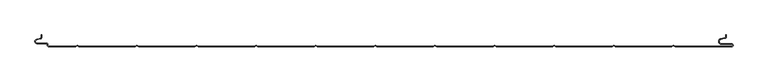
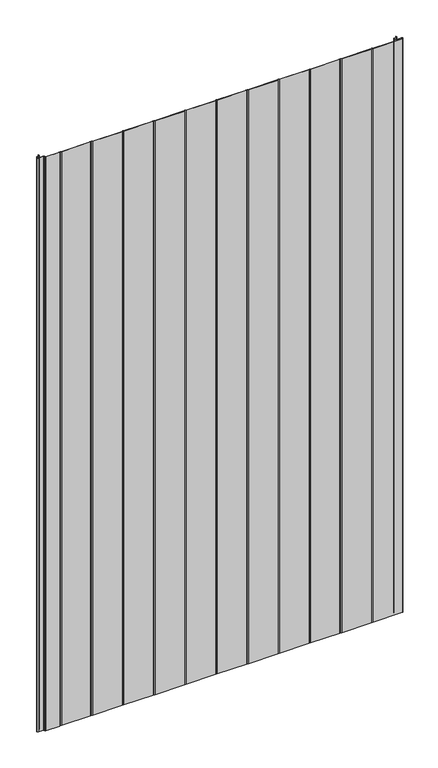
"""IFC4 building model written with IfcOpenShell, lengths in millimetres: plate geometry, PM1_Curtain-Panel_Perfil-Frigorífico : ACH_PM1_Panel-Acústico-Sectorización_200M."""

from ifc_helpers import new_model, si_unit, frame, origin, place, context, project, spatial, polyline, circle_curve, source, transform, mapped, element, save
from ifc_brep_helpers import plane_surface, cylinder_surface, revolved_surface, advanced_brep


def plate_b6d19df9(model_context):
    return source(origin(), model_context, "Body", "AdvancedBrep", [
        advanced_brep(
        [(-575.0, -184.121443, 1945.7507136), (-576.5500978, -186.0701831, 1945.7507136), (-582.7098239, -187.492268, 1945.7507136), (-581.9, -194.6, 1945.7507136), (-566.4, -194.6, 1945.7507136), (-564.4, -196.6, 1945.7507136), (-564.4, -198.0, 1945.7507136), (-562.4, -200.0, 1945.7507136), (-517.0999995, -200.0, 1945.7507136), (-514.4, -198.4411545, 1945.7507136), (-511.7000005, -200.0, 1945.7507136), (-417.0999995, -200.0, 1945.7507136), (-414.4, -198.4411545, 1945.7507136), (-411.7000005, -200.0, 1945.7507136), (-317.0999995, -200.0, 1945.7507136), (-314.4, -198.4411545, 1945.7507136), (-311.7000005, -200.0, 1945.7507136), (-217.0999995, -200.0, 1945.7507136), (-214.4, -198.4411545, 1945.7507136), (-211.7000005, -200.0, 1945.7507136), (-117.0999995, -200.0, 1945.7507136), (-114.4, -198.4411545, 1945.7507136), (-111.7000005, -200.0, 1945.7507136), (-17.0999995, -200.0, 1945.7507136), (-14.4, -198.4411545, 1945.7507136), (-11.7000005, -200.0, 1945.7507136), (82.9000005, -200.0, 1945.7507136), (85.6, -198.4411545, 1945.7507136), (88.2999995, -200.0, 1945.7507136), (182.9000005, -200.0, 1945.7507136), (185.6, -198.4411545, 1945.7507136), (188.2999995, -200.0, 1945.7507136), (282.9000005, -200.0, 1945.7507136), (285.6, -198.4411545, 1945.7507136), (288.2999995, -200.0, 1945.7507136), (382.9000005, -200.0, 1945.7507136), (385.6, -198.4411545, 1945.7507136), (388.2999995, -200.0, 1945.7507136), (482.9000005, -200.0, 1945.7507136), (485.6, -198.4411545, 1945.7507136), (488.2999995, -200.0, 1945.7507136), (583.1, -200.0, 1945.7507136), (585.6, -197.5, 1945.7507136), (583.1, -195.0, 1945.7507136), (566.1, -195.0, 1945.7507136), (565.405407, -187.060769, 1945.7507136), (571.8514855, -185.9241509, 1945.7507136), (574.0, -183.3636508, 1945.7507136), (574.0, -180.0, 1945.7507136), (573.2, -180.0, 1945.7507136), (573.2, -183.3636508, 1945.7507136), (571.7125669, -185.1363047, 1945.7507136), (565.2664884, -186.2729228, 1945.7507136), (566.1, -195.8, 1945.7507136), (583.1, -195.8, 1945.7507136), (583.1, -199.2, 1945.7507136), (488.5143588, -199.2, 1945.7507136), (485.6, -197.517394, 1945.7507136), (482.6856412, -199.2, 1945.7507136), (388.5143588, -199.2, 1945.7507136), (385.6, -197.517394, 1945.7507136), (382.6856412, -199.2, 1945.7507136), (288.5143588, -199.2, 1945.7507136), (285.6, -197.517394, 1945.7507136), (282.6856412, -199.2, 1945.7507136), (188.5143588, -199.2, 1945.7507136), (185.6, -197.517394, 1945.7507136), (182.6856412, -199.2, 1945.7507136), (88.5143588, -199.2, 1945.7507136), (85.6, -197.517394, 1945.7507136), (82.6856412, -199.2, 1945.7507136), (-11.4856412, -199.2, 1945.7507136), (-14.4, -197.517394, 1945.7507136), (-17.3143588, -199.2, 1945.7507136), (-111.4856412, -199.2, 1945.7507136), (-114.4, -197.517394, 1945.7507136), (-117.3143588, -199.2, 1945.7507136), (-211.4856412, -199.2, 1945.7507136), (-214.4, -197.517394, 1945.7507136), (-217.3143588, -199.2, 1945.7507136), (-311.4856412, -199.2, 1945.7507136), (-314.4, -197.517394, 1945.7507136), (-317.3143588, -199.2, 1945.7507136), (-411.4856412, -199.2, 1945.7507136), (-414.4, -197.517394, 1945.7507136), (-417.3143588, -199.2, 1945.7507136), (-511.4856412, -199.2, 1945.7507136), (-514.4, -197.517394, 1945.7507136), (-517.3143588, -199.2, 1945.7507136), (-562.4, -199.2, 1945.7507136), (-563.6, -198.0, 1945.7507136), (-563.6, -196.6, 1945.7507136), (-566.4, -193.8, 1945.7507136), (-581.9, -193.8, 1945.7507136), (-582.529863, -188.2717638, 1945.7507136), (-576.370137, -186.849679, 1945.7507136), (-574.2, -184.121443, 1945.7507136), (-574.2, -180.0, 1945.7507136), (-575.0, -180.0, 1945.7507136), (-575.0, -184.121443, 0.0), (-575.0, -180.0, 0.0), (-574.2, -180.0, 0.0), (-574.2, -184.121443, 0.0), (-576.370137, -186.8496792, 0.0), (-582.529863, -188.271764, 0.0), (-581.9, -193.8, 0.0), (-566.4, -193.8, 0.0), (-563.6, -196.6, 0.0), (-563.6, -198.0, 0.0), (-562.4, -199.2, 0.0), (-517.3143588, -199.2, 0.0), (-514.4, -197.517394, 0.0), (-511.4856412, -199.2, 0.0), (-417.3143588, -199.2, 0.0), (-414.4, -197.517394, 0.0), (-411.4856412, -199.2, 0.0), (-317.3143588, -199.2, 0.0), (-314.4, -197.517394, 0.0), (-311.4856412, -199.2, 0.0), (-217.3143588, -199.2, 0.0), (-214.4, -197.517394, 0.0), (-211.4856412, -199.2, 0.0), (-117.3143588, -199.2, 0.0), (-114.4, -197.517394, 0.0), (-111.4856412, -199.2, 0.0), (-17.3143588, -199.2, 0.0), (-14.4, -197.517394, 0.0), (-11.4856412, -199.2, 0.0), (82.6856412, -199.2, 0.0), (85.6, -197.517394, 0.0), (88.5143588, -199.2, 0.0), (182.6856412, -199.2, 0.0), (185.6, -197.517394, 0.0), (188.5143588, -199.2, 0.0), (282.6856412, -199.2, 0.0), (285.6, -197.517394, 0.0), (288.5143588, -199.2, 0.0), (382.6856412, -199.2, 0.0), (385.6, -197.517394, 0.0), (388.5143588, -199.2, 0.0), (482.6856412, -199.2, 0.0), (485.6, -197.517394, 0.0), (488.5143588, -199.2, 0.0), (583.1, -199.2, 0.0), (583.1, -195.8, 0.0), (566.1, -195.8, 0.0), (565.2664884, -186.2729229, 0.0), (571.7125669, -185.1363047, 0.0), (573.2, -183.3636508, 0.0), (573.2, -180.0, 0.0), (574.0, -180.0, 0.0), (574.0, -183.3636508, 0.0), (571.8514855, -185.9241509, 0.0), (565.405407, -187.060769, 0.0), (566.1, -195.0, 0.0), (583.1, -195.0, 0.0), (585.6, -197.5, 0.0), (583.1, -200.0, 0.0), (488.2999995, -200.0, 0.0), (485.6, -198.4411545, 0.0), (482.9000005, -200.0, 0.0), (388.2999995, -200.0, 0.0), (385.6, -198.4411545, 0.0), (382.9000005, -200.0, 0.0), (288.2999995, -200.0, 0.0), (285.6, -198.4411545, 0.0), (282.9000005, -200.0, 0.0), (188.2999995, -200.0, 0.0), (185.6, -198.4411545, 0.0), (182.9000005, -200.0, 0.0), (88.2999995, -200.0, 0.0), (85.6, -198.4411545, 0.0), (82.9000005, -200.0, 0.0), (-11.7000005, -200.0, 0.0), (-14.4, -198.4411545, 0.0), (-17.0999995, -200.0, 0.0), (-111.7000005, -200.0, 0.0), (-114.4, -198.4411545, 0.0), (-117.0999995, -200.0, 0.0), (-211.7000005, -200.0, 0.0), (-214.4, -198.4411545, 0.0), (-217.0999995, -200.0, 0.0), (-311.7000005, -200.0, 0.0), (-314.4, -198.4411545, 0.0), (-317.0999995, -200.0, 0.0), (-411.7000005, -200.0, 0.0), (-414.4, -198.4411545, 0.0), (-417.0999995, -200.0, 0.0), (-511.7000005, -200.0, 0.0), (-514.4, -198.4411545, 0.0), (-517.0999995, -200.0, 0.0), (-562.4, -200.0, 0.0), (-564.4, -198.0, 0.0), (-564.4, -196.6, 0.0), (-566.4, -194.6, 0.0), (-581.9, -194.6, 0.0), (-582.7098239, -187.4922678, 0.0), (-576.5500979, -186.070183, 0.0)],
        [
            (0, 1, circle_curve(frame((-577.0, -184.121443, 1945.7507136), z_axis=(0.0, 0.0, -1.0), x_axis=(1.0, 0.0, 0.0)), 2.0)),
            (1, 2),
            (2, 3, circle_curve(frame((-581.9, -191.0, 1945.7507136), z_axis=(0.0, 0.0, 1.0), x_axis=(1.0, 0.0, 0.0)), 3.6)),
            (3, 4),
            (4, 5, circle_curve(frame((-566.4, -196.6, 1945.7507136), z_axis=(0.0, 0.0, -1.0), x_axis=(1.0, 0.0, 0.0)), 2.0)),
            (5, 6),
            (6, 7, circle_curve(frame((-562.4, -198.0, 1945.7507136), z_axis=(0.0, 0.0, 1.0), x_axis=(1.0, 0.0, 0.0)), 2.0)),
            (7, 8),
            (8, 9),
            (9, 10),
            (10, 11),
            (11, 12),
            (12, 13),
            (13, 14),
            (14, 15),
            (15, 16),
            (16, 17),
            (17, 18),
            (18, 19),
            (19, 20),
            (20, 21),
            (21, 22),
            (22, 23),
            (23, 24),
            (24, 25),
            (25, 26),
            (26, 27),
            (27, 28),
            (28, 29),
            (29, 30),
            (30, 31),
            (31, 32),
            (32, 33),
            (33, 34),
            (34, 35),
            (35, 36),
            (36, 37),
            (37, 38),
            (38, 39),
            (39, 40),
            (40, 41),
            (41, 42, circle_curve(frame((583.1, -197.5, 1945.7507136), z_axis=(0.0, 0.0, 1.0), x_axis=(1.0, 0.0, 0.0)), 2.5)),
            (42, 43, circle_curve(frame((583.1, -197.5, 1945.7507136), z_axis=(0.0, 0.0, 1.0), x_axis=(1.0, 0.0, 0.0)), 2.5)),
            (43, 44),
            (44, 45, circle_curve(frame((566.1, -191.0, 1945.7507136), z_axis=(0.0, 0.0, -1.0), x_axis=(1.0, 0.0, 0.0)), 4.0)),
            (45, 46),
            (46, 47, circle_curve(frame((571.4, -183.3636508, 1945.7507136), z_axis=(0.0, 0.0, 1.0), x_axis=(1.0, 0.0, 0.0)), 2.6)),
            (47, 48),
            (48, 49),
            (49, 50),
            (50, 51, circle_curve(frame((571.4, -183.3636508, 1945.7507136), z_axis=(0.0, 0.0, -1.0), x_axis=(1.0, 0.0, 0.0)), 1.8)),
            (51, 52),
            (52, 53, circle_curve(frame((566.1, -191.0, 1945.7507136), z_axis=(0.0, 0.0, 1.0), x_axis=(1.0, 0.0, 0.0)), 4.8)),
            (53, 54),
            (54, 55, circle_curve(frame((583.1, -197.5, 1945.7507136), z_axis=(0.0, 0.0, -1.0), x_axis=(1.0, 0.0, 0.0)), 1.7)),
            (55, 56),
            (56, 57),
            (57, 58),
            (58, 59),
            (59, 60),
            (60, 61),
            (61, 62),
            (62, 63),
            (63, 64),
            (64, 65),
            (65, 66),
            (66, 67),
            (67, 68),
            (68, 69),
            (69, 70),
            (70, 71),
            (71, 72),
            (72, 73),
            (73, 74),
            (74, 75),
            (75, 76),
            (76, 77),
            (77, 78),
            (78, 79),
            (79, 80),
            (80, 81),
            (81, 82),
            (82, 83),
            (83, 84),
            (84, 85),
            (85, 86),
            (86, 87),
            (87, 88),
            (88, 89),
            (89, 90, circle_curve(frame((-562.4, -198.0, 1945.7507136), z_axis=(0.0, 0.0, -1.0), x_axis=(1.0, 0.0, 0.0)), 1.2)),
            (90, 91),
            (91, 92, circle_curve(frame((-566.4, -196.6, 1945.7507136), z_axis=(0.0, 0.0, 1.0), x_axis=(1.0, 0.0, 0.0)), 2.8)),
            (92, 93),
            (93, 94, circle_curve(frame((-581.9, -191.0, 1945.7507136), z_axis=(0.0, 0.0, -1.0), x_axis=(1.0, 0.0, 0.0)), 2.8)),
            (94, 95),
            (95, 96, circle_curve(frame((-577.0, -184.121443, 1945.7507136), z_axis=(0.0, 0.0, 1.0), x_axis=(1.0, 0.0, 0.0)), 2.8)),
            (96, 97),
            (97, 98),
            (98, 0),
            (99, 100),
            (100, 101),
            (101, 102),
            (102, 103, circle_curve(frame((-577.0, -184.121443, 0.0), z_axis=(0.0, 0.0, -1.0), x_axis=(1.0, 0.0, 0.0)), 2.8)),
            (103, 104),
            (104, 105, circle_curve(frame((-581.9, -191.0, 0.0), z_axis=(0.0, 0.0, 1.0), x_axis=(1.0, 0.0, 0.0)), 2.8)),
            (105, 106),
            (106, 107, circle_curve(frame((-566.4, -196.6, 0.0), z_axis=(0.0, 0.0, -1.0), x_axis=(1.0, 0.0, 0.0)), 2.8)),
            (107, 108),
            (108, 109, circle_curve(frame((-562.4, -198.0, 0.0), z_axis=(0.0, 0.0, 1.0), x_axis=(1.0, 0.0, 0.0)), 1.2)),
            (109, 110),
            (110, 111),
            (111, 112),
            (112, 113),
            (113, 114),
            (114, 115),
            (115, 116),
            (116, 117),
            (117, 118),
            (118, 119),
            (119, 120),
            (120, 121),
            (121, 122),
            (122, 123),
            (123, 124),
            (124, 125),
            (125, 126),
            (126, 127),
            (127, 128),
            (128, 129),
            (129, 130),
            (130, 131),
            (131, 132),
            (132, 133),
            (133, 134),
            (134, 135),
            (135, 136),
            (136, 137),
            (137, 138),
            (138, 139),
            (139, 140),
            (140, 141),
            (141, 142),
            (142, 143),
            (143, 144, circle_curve(frame((583.1, -197.5, 0.0), z_axis=(0.0, 0.0, 1.0), x_axis=(1.0, 0.0, 0.0)), 1.7)),
            (144, 145),
            (145, 146, circle_curve(frame((566.1, -191.0, 0.0), z_axis=(0.0, 0.0, -1.0), x_axis=(1.0, 0.0, 0.0)), 4.8)),
            (146, 147),
            (147, 148, circle_curve(frame((571.4, -183.3636508, 0.0), z_axis=(0.0, 0.0, 1.0), x_axis=(1.0, 0.0, 0.0)), 1.8)),
            (148, 149),
            (149, 150),
            (150, 151),
            (151, 152, circle_curve(frame((571.4, -183.3636508, 0.0), z_axis=(0.0, 0.0, -1.0), x_axis=(1.0, 0.0, 0.0)), 2.6)),
            (152, 153),
            (153, 154, circle_curve(frame((566.1, -191.0, 0.0), z_axis=(0.0, 0.0, 1.0), x_axis=(1.0, 0.0, 0.0)), 4.0)),
            (154, 155),
            (155, 156, circle_curve(frame((583.1, -197.5, 0.0), z_axis=(0.0, 0.0, -1.0), x_axis=(1.0, 0.0, 0.0)), 2.5)),
            (156, 157, circle_curve(frame((583.1, -197.5, 0.0), z_axis=(0.0, 0.0, -1.0), x_axis=(1.0, 0.0, 0.0)), 2.5)),
            (157, 158),
            (158, 159),
            (159, 160),
            (160, 161),
            (161, 162),
            (162, 163),
            (163, 164),
            (164, 165),
            (165, 166),
            (166, 167),
            (167, 168),
            (168, 169),
            (169, 170),
            (170, 171),
            (171, 172),
            (172, 173),
            (173, 174),
            (174, 175),
            (175, 176),
            (176, 177),
            (177, 178),
            (178, 179),
            (179, 180),
            (180, 181),
            (181, 182),
            (182, 183),
            (183, 184),
            (184, 185),
            (185, 186),
            (186, 187),
            (187, 188),
            (188, 189),
            (189, 190),
            (190, 191),
            (191, 192, circle_curve(frame((-562.4, -198.0, 0.0), z_axis=(0.0, 0.0, -1.0), x_axis=(1.0, 0.0, 0.0)), 2.0)),
            (192, 193),
            (193, 194, circle_curve(frame((-566.4, -196.6, 0.0), z_axis=(0.0, 0.0, 1.0), x_axis=(1.0, 0.0, 0.0)), 2.0)),
            (194, 195),
            (195, 196, circle_curve(frame((-581.9, -191.0, 0.0), z_axis=(0.0, 0.0, -1.0), x_axis=(1.0, 0.0, 0.0)), 3.6)),
            (196, 197),
            (197, 99, circle_curve(frame((-577.0, -184.121443, 0.0), z_axis=(0.0, 0.0, 1.0), x_axis=(1.0, 0.0, 0.0)), 2.0)),
            (0, 99),
            (197, 1),
            (196, 2),
            (195, 3),
            (194, 4),
            (193, 5),
            (192, 6),
            (191, 7),
            (190, 8),
            (189, 9),
            (188, 10),
            (187, 11),
            (186, 12),
            (185, 13),
            (184, 14),
            (183, 15),
            (182, 16),
            (181, 17),
            (180, 18),
            (179, 19),
            (178, 20),
            (177, 21),
            (176, 22),
            (175, 23),
            (174, 24),
            (173, 25),
            (172, 26),
            (171, 27),
            (170, 28),
            (169, 29),
            (168, 30),
            (167, 31),
            (166, 32),
            (165, 33),
            (164, 34),
            (163, 35),
            (162, 36),
            (161, 37),
            (160, 38),
            (159, 39),
            (158, 40),
            (157, 41),
            (155, 43),
            (154, 44),
            (153, 45),
            (152, 46),
            (151, 47),
            (150, 48),
            (149, 49),
            (148, 50),
            (147, 51),
            (146, 52),
            (145, 53),
            (144, 54),
            (143, 55),
            (142, 56),
            (141, 57),
            (140, 58),
            (139, 59),
            (138, 60),
            (137, 61),
            (136, 62),
            (135, 63),
            (134, 64),
            (133, 65),
            (132, 66),
            (131, 67),
            (130, 68),
            (129, 69),
            (128, 70),
            (127, 71),
            (126, 72),
            (125, 73),
            (124, 74),
            (123, 75),
            (122, 76),
            (121, 77),
            (120, 78),
            (119, 79),
            (118, 80),
            (117, 81),
            (116, 82),
            (115, 83),
            (114, 84),
            (113, 85),
            (112, 86),
            (111, 87),
            (110, 88),
            (109, 89),
            (108, 90),
            (107, 91),
            (106, 92),
            (105, 93),
            (104, 94),
            (103, 95),
            (102, 96),
            (101, 97),
            (100, 98),
        ],
        [
            plane_surface(frame((-575.0, -200.0, 1945.7507136), z_axis=(0.0, 0.0, 1.0), x_axis=(0.0, 1.0, 0.0))),
            plane_surface(frame((-575.0, -200.0, 0.0), z_axis=(0.0, 0.0, -1.0), x_axis=(0.0, 1.0, 0.0))),
            revolved_surface(polyline([(-575.0, -184.121443, 0.0), (-575.0, -184.121443, 1945.7507136)]), (-577.0, -184.121443, 1945.7507136), (0.0, 0.0, -1.0)),
            plane_surface(frame((-576.5500979, -186.070183, 1945.7507136), z_axis=(-0.22495108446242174, 0.9743700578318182, 0.0), x_axis=(0.0, 0.0, -1.0))),
            cylinder_surface(frame((-581.9, -191.0, 1945.7507136), z_axis=(0.0, 0.0, 1.0), x_axis=(1.0, 0.0, 0.0)), 3.6),
            plane_surface(frame((-581.9, -194.6, 1945.7507136), z_axis=(0.0, -1.0, 0.0), x_axis=(0.0, 0.0, -1.0))),
            revolved_surface(polyline([(-564.4, -196.6, 0.0), (-564.4, -196.6, 1945.7507136)]), (-566.4, -196.6, 1945.7507136), (0.0, 0.0, -1.0)),
            plane_surface(frame((-564.4, -196.6, 1945.7507136), z_axis=(-1.0, 0.0, 0.0), x_axis=(0.0, 0.0, -1.0))),
            cylinder_surface(frame((-562.4, -198.0, 1945.7507136), z_axis=(0.0, 0.0, 1.0), x_axis=(1.0, 0.0, 0.0)), 2.0),
            plane_surface(frame((-562.4, -200.0, 1945.7507136), z_axis=(0.0, -1.0, 0.0), x_axis=(0.0, 0.0, -1.0))),
            plane_surface(frame((-517.0999995, -200.0, 1945.7507136), z_axis=(0.5000000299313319, -0.8660253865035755, 0.0), x_axis=(0.0, 0.0, -1.0))),
            plane_surface(frame((-514.4, -198.4411545, 1945.7507136), z_axis=(-0.5000000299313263, -0.8660253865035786, 0.0), x_axis=(0.0, 0.0, -1.0))),
            plane_surface(frame((-511.7000005, -200.0, 1945.7507136), z_axis=(0.0, -1.0, 0.0), x_axis=(0.0, 0.0, -1.0))),
            plane_surface(frame((-417.0999995, -200.0, 1945.7507136), z_axis=(0.5000000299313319, -0.8660253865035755, 0.0), x_axis=(0.0, 0.0, -1.0))),
            plane_surface(frame((-414.4, -198.4411545, 1945.7507136), z_axis=(-0.5000000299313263, -0.8660253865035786, 0.0), x_axis=(0.0, 0.0, -1.0))),
            plane_surface(frame((-411.7000005, -200.0, 1945.7507136), z_axis=(0.0, -1.0, 0.0), x_axis=(0.0, 0.0, -1.0))),
            plane_surface(frame((-317.0999995, -200.0, 1945.7507136), z_axis=(0.5000000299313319, -0.8660253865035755, 0.0), x_axis=(0.0, 0.0, -1.0))),
            plane_surface(frame((-314.4, -198.4411545, 1945.7507136), z_axis=(-0.5000000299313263, -0.8660253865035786, 0.0), x_axis=(0.0, 0.0, -1.0))),
            plane_surface(frame((-311.7000005, -200.0, 1945.7507136), z_axis=(0.0, -1.0, 0.0), x_axis=(0.0, 0.0, -1.0))),
            plane_surface(frame((-217.0999995, -200.0, 1945.7507136), z_axis=(0.5000000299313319, -0.8660253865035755, 0.0), x_axis=(0.0, 0.0, -1.0))),
            plane_surface(frame((-214.4, -198.4411545, 1945.7507136), z_axis=(-0.5000000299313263, -0.8660253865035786, 0.0), x_axis=(0.0, 0.0, -1.0))),
            plane_surface(frame((-211.7000005, -200.0, 1945.7507136), z_axis=(0.0, -1.0, 0.0), x_axis=(0.0, 0.0, -1.0))),
            plane_surface(frame((-117.0999995, -200.0, 1945.7507136), z_axis=(0.5000000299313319, -0.8660253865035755, 0.0), x_axis=(0.0, 0.0, -1.0))),
            plane_surface(frame((-114.4, -198.4411545, 1945.7507136), z_axis=(-0.5000000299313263, -0.8660253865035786, 0.0), x_axis=(0.0, 0.0, -1.0))),
            plane_surface(frame((-111.7000005, -200.0, 1945.7507136), z_axis=(0.0, -1.0, 0.0), x_axis=(0.0, 0.0, -1.0))),
            plane_surface(frame((-17.0999995, -200.0, 1945.7507136), z_axis=(0.5000000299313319, -0.8660253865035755, 0.0), x_axis=(0.0, 0.0, -1.0))),
            plane_surface(frame((-14.4, -198.4411545, 1945.7507136), z_axis=(-0.5000000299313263, -0.8660253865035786, 0.0), x_axis=(0.0, 0.0, -1.0))),
            plane_surface(frame((-11.7000005, -200.0, 1945.7507136), z_axis=(0.0, -1.0, 0.0), x_axis=(0.0, 0.0, -1.0))),
            plane_surface(frame((82.9000005, -200.0, 1945.7507136), z_axis=(0.5000000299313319, -0.8660253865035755, 0.0), x_axis=(0.0, 0.0, -1.0))),
            plane_surface(frame((85.6, -198.4411545, 1945.7507136), z_axis=(-0.5000000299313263, -0.8660253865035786, 0.0), x_axis=(0.0, 0.0, -1.0))),
            plane_surface(frame((88.2999995, -200.0, 1945.7507136), z_axis=(0.0, -1.0, 0.0), x_axis=(0.0, 0.0, -1.0))),
            plane_surface(frame((182.9000005, -200.0, 1945.7507136), z_axis=(0.5000000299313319, -0.8660253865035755, 0.0), x_axis=(0.0, 0.0, -1.0))),
            plane_surface(frame((185.6, -198.4411545, 1945.7507136), z_axis=(-0.5000000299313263, -0.8660253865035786, 0.0), x_axis=(0.0, 0.0, -1.0))),
            plane_surface(frame((188.2999995, -200.0, 1945.7507136), z_axis=(0.0, -1.0, 0.0), x_axis=(0.0, 0.0, -1.0))),
            plane_surface(frame((282.9000005, -200.0, 1945.7507136), z_axis=(0.5000000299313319, -0.8660253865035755, 0.0), x_axis=(0.0, 0.0, -1.0))),
            plane_surface(frame((285.6, -198.4411545, 1945.7507136), z_axis=(-0.5000000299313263, -0.8660253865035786, 0.0), x_axis=(0.0, 0.0, -1.0))),
            plane_surface(frame((288.2999995, -200.0, 1945.7507136), z_axis=(0.0, -1.0, 0.0), x_axis=(0.0, 0.0, -1.0))),
            plane_surface(frame((382.9000005, -200.0, 1945.7507136), z_axis=(0.5000000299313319, -0.8660253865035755, 0.0), x_axis=(0.0, 0.0, -1.0))),
            plane_surface(frame((385.6, -198.4411545, 1945.7507136), z_axis=(-0.5000000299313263, -0.8660253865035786, 0.0), x_axis=(0.0, 0.0, -1.0))),
            plane_surface(frame((388.2999995, -200.0, 1945.7507136), z_axis=(0.0, -1.0, 0.0), x_axis=(0.0, 0.0, -1.0))),
            plane_surface(frame((482.9000005, -200.0, 1945.7507136), z_axis=(0.5000000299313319, -0.8660253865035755, 0.0), x_axis=(0.0, 0.0, -1.0))),
            plane_surface(frame((485.6, -198.4411545, 1945.7507136), z_axis=(-0.5000000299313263, -0.8660253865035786, 0.0), x_axis=(0.0, 0.0, -1.0))),
            plane_surface(frame((535.6, -200.0, 1945.7507136), z_axis=(0.0, -1.0, 0.0), x_axis=(0.0, 0.0, -1.0))),
            cylinder_surface(frame((583.1, -197.5, 1945.7507136), z_axis=(0.0, 0.0, 1.0), x_axis=(1.0, 0.0, 0.0)), 2.5),
            plane_surface(frame((583.1, -195.0, 1945.7507136), z_axis=(0.0, 1.0, 0.0), x_axis=(0.0, 0.0, -1.0))),
            revolved_surface(polyline([(570.1, -191.0, 0.0), (570.1, -191.0, 1945.7507136)]), (566.1, -191.0, 1945.7507136), (0.0, 0.0, -1.0)),
            plane_surface(frame((565.405407, -187.060769, 1945.7507136), z_axis=(0.17364825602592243, -0.9848077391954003, 0.0), x_axis=(0.0, 0.0, -1.0))),
            cylinder_surface(frame((571.4, -183.3636508, 1945.7507136), z_axis=(0.0, 0.0, 1.0), x_axis=(1.0, 0.0, 0.0)), 2.6),
            plane_surface(frame((574.0, -183.3636508, 1945.7507136), z_axis=(1.0, 0.0, 0.0), x_axis=(0.0, 0.0, -1.0))),
            plane_surface(frame((574.0, -180.0, 1945.7507136), z_axis=(0.0, 1.0, 0.0), x_axis=(0.0, 0.0, -1.0))),
            plane_surface(frame((573.2, -180.0, 1945.7507136), z_axis=(-1.0, 0.0, 0.0), x_axis=(0.0, 0.0, -1.0))),
            revolved_surface(polyline([(573.1999999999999, -183.3636508, 0.0), (573.1999999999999, -183.3636508, 1945.7507136)]), (571.4, -183.3636508, 1945.7507136), (0.0, 0.0, -1.0)),
            plane_surface(frame((571.7125669, -185.1363047, 1945.7507136), z_axis=(-0.17364825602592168, 0.9848077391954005, 0.0), x_axis=(0.0, 0.0, -1.0))),
            cylinder_surface(frame((566.1, -191.0, 1945.7507136), z_axis=(0.0, 0.0, 1.0), x_axis=(1.0, 0.0, 0.0)), 4.8),
            plane_surface(frame((566.1, -195.8, 1945.7507136), z_axis=(0.0, -1.0, 0.0), x_axis=(0.0, 0.0, -1.0))),
            revolved_surface(polyline([(584.8000000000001, -197.5, 0.0), (584.8000000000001, -197.5, 1945.7507136)]), (583.1, -197.5, 1945.7507136), (0.0, 0.0, -1.0)),
            plane_surface(frame((535.6, -199.2, 1945.7507136), z_axis=(0.0, 1.0, 0.0), x_axis=(0.0, 0.0, -1.0))),
            plane_surface(frame((488.5143588, -199.2, 1945.7507136), z_axis=(0.5000000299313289, 0.8660253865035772, 0.0), x_axis=(0.0, 0.0, -1.0))),
            plane_surface(frame((485.6, -197.517394, 1945.7507136), z_axis=(-0.5000000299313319, 0.8660253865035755, 0.0), x_axis=(0.0, 0.0, -1.0))),
            plane_surface(frame((482.6856412, -199.2, 1945.7507136), z_axis=(0.0, 1.0, 0.0), x_axis=(0.0, 0.0, -1.0))),
            plane_surface(frame((388.5143588, -199.2, 1945.7507136), z_axis=(0.5000000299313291, 0.8660253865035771, 0.0), x_axis=(0.0, 0.0, -1.0))),
            plane_surface(frame((385.6, -197.517394, 1945.7507136), z_axis=(-0.500000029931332, 0.8660253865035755, 0.0), x_axis=(0.0, 0.0, -1.0))),
            plane_surface(frame((382.6856412, -199.2, 1945.7507136), z_axis=(0.0, 1.0, 0.0), x_axis=(0.0, 0.0, -1.0))),
            plane_surface(frame((288.5143588, -199.2, 1945.7507136), z_axis=(0.5000000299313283, 0.8660253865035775, 0.0), x_axis=(0.0, 0.0, -1.0))),
            plane_surface(frame((285.6, -197.517394, 1945.7507136), z_axis=(-0.5000000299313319, 0.8660253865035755, 0.0), x_axis=(0.0, 0.0, -1.0))),
            plane_surface(frame((282.6856412, -199.2, 1945.7507136), z_axis=(0.0, 1.0, 0.0), x_axis=(0.0, 0.0, -1.0))),
            plane_surface(frame((188.5143588, -199.2, 1945.7507136), z_axis=(0.5000000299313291, 0.8660253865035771, 0.0), x_axis=(0.0, 0.0, -1.0))),
            plane_surface(frame((185.6, -197.517394, 1945.7507136), z_axis=(-0.5000000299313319, 0.8660253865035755, 0.0), x_axis=(0.0, 0.0, -1.0))),
            plane_surface(frame((182.6856412, -199.2, 1945.7507136), z_axis=(0.0, 1.0, 0.0), x_axis=(0.0, 0.0, -1.0))),
            plane_surface(frame((88.5143588, -199.2, 1945.7507136), z_axis=(0.5000000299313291, 0.8660253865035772, 0.0), x_axis=(0.0, 0.0, -1.0))),
            plane_surface(frame((85.6, -197.517394, 1945.7507136), z_axis=(-0.5000000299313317, 0.8660253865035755, 0.0), x_axis=(0.0, 0.0, -1.0))),
            plane_surface(frame((82.6856412, -199.2, 1945.7507136), z_axis=(0.0, 1.0, 0.0), x_axis=(0.0, 0.0, -1.0))),
            plane_surface(frame((-11.4856412, -199.2, 1945.7507136), z_axis=(0.500000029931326, 0.8660253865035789, 0.0), x_axis=(0.0, 0.0, -1.0))),
            plane_surface(frame((-14.4, -197.517394, 1945.7507136), z_axis=(-0.500000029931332, 0.8660253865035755, 0.0), x_axis=(0.0, 0.0, -1.0))),
            plane_surface(frame((-17.3143588, -199.2, 1945.7507136), z_axis=(0.0, 1.0, 0.0), x_axis=(0.0, 0.0, -1.0))),
            plane_surface(frame((-111.4856412, -199.2, 1945.7507136), z_axis=(0.5000000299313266, 0.8660253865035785, 0.0), x_axis=(0.0, 0.0, -1.0))),
            plane_surface(frame((-114.4, -197.517394, 1945.7507136), z_axis=(-0.5000000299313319, 0.8660253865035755, 0.0), x_axis=(0.0, 0.0, -1.0))),
            plane_surface(frame((-117.3143588, -199.2, 1945.7507136), z_axis=(0.0, 1.0, 0.0), x_axis=(0.0, 0.0, -1.0))),
            plane_surface(frame((-211.4856412, -199.2, 1945.7507136), z_axis=(0.5000000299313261, 0.8660253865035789, 0.0), x_axis=(0.0, 0.0, -1.0))),
            plane_surface(frame((-214.4, -197.517394, 1945.7507136), z_axis=(-0.500000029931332, 0.8660253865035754, 0.0), x_axis=(0.0, 0.0, -1.0))),
            plane_surface(frame((-217.3143588, -199.2, 1945.7507136), z_axis=(0.0, 1.0, 0.0), x_axis=(0.0, 0.0, -1.0))),
            plane_surface(frame((-311.4856412, -199.2, 1945.7507136), z_axis=(0.5000000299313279, 0.8660253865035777, 0.0), x_axis=(0.0, 0.0, -1.0))),
            plane_surface(frame((-314.4, -197.517394, 1945.7507136), z_axis=(-0.5000000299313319, 0.8660253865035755, 0.0), x_axis=(0.0, 0.0, -1.0))),
            plane_surface(frame((-317.3143588, -199.2, 1945.7507136), z_axis=(0.0, 1.0, 0.0), x_axis=(0.0, 0.0, -1.0))),
            plane_surface(frame((-411.4856412, -199.2, 1945.7507136), z_axis=(0.5000000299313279, 0.8660253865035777, 0.0), x_axis=(0.0, 0.0, -1.0))),
            plane_surface(frame((-414.4, -197.517394, 1945.7507136), z_axis=(-0.5000000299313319, 0.8660253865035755, 0.0), x_axis=(0.0, 0.0, -1.0))),
            plane_surface(frame((-417.3143588, -199.2, 1945.7507136), z_axis=(0.0, 1.0, 0.0), x_axis=(0.0, 0.0, -1.0))),
            plane_surface(frame((-511.4856412, -199.2, 1945.7507136), z_axis=(0.5000000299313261, 0.8660253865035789, 0.0), x_axis=(0.0, 0.0, -1.0))),
            plane_surface(frame((-514.4, -197.517394, 1945.7507136), z_axis=(-0.5000000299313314, 0.8660253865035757, 0.0), x_axis=(0.0, 0.0, -1.0))),
            plane_surface(frame((-517.3143588, -199.2, 1945.7507136), z_axis=(0.0, 1.0, 0.0), x_axis=(0.0, 0.0, -1.0))),
            revolved_surface(polyline([(-561.1999999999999, -198.0, 0.0), (-561.1999999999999, -198.0, 1945.7507136)]), (-562.4, -198.0, 1945.7507136), (0.0, 0.0, -1.0)),
            plane_surface(frame((-563.6, -198.0, 1945.7507136), z_axis=(1.0, 0.0, 0.0), x_axis=(0.0, 0.0, -1.0))),
            cylinder_surface(frame((-566.4, -196.6, 1945.7507136), z_axis=(0.0, 0.0, 1.0), x_axis=(1.0, 0.0, 0.0)), 2.8),
            plane_surface(frame((-566.4, -193.8, 1945.7507136), z_axis=(0.0, 1.0, 0.0), x_axis=(0.0, 0.0, -1.0))),
            revolved_surface(polyline([(-579.1, -191.0, 0.0), (-579.1, -191.0, 1945.7507136)]), (-581.9, -191.0, 1945.7507136), (0.0, 0.0, -1.0)),
            plane_surface(frame((-582.529863, -188.271764, 1945.7507136), z_axis=(0.22495108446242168, -0.9743700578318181, 0.0), x_axis=(0.0, 0.0, -1.0))),
            cylinder_surface(frame((-577.0, -184.121443, 1945.7507136), z_axis=(0.0, 0.0, 1.0), x_axis=(1.0, 0.0, 0.0)), 2.8),
            plane_surface(frame((-574.2, -184.121443, 1945.7507136), z_axis=(1.0, 0.0, 0.0), x_axis=(0.0, 0.0, -1.0))),
            plane_surface(frame((-574.2, -180.0, 1945.7507136), z_axis=(0.0, 1.0, 0.0), x_axis=(0.0, 0.0, -1.0))),
            plane_surface(frame((-575.0, -180.0, 1945.7507136), z_axis=(-1.0, 0.0, 0.0), x_axis=(0.0, 0.0, -1.0))),
        ],
        [
            (0, [[1, 2, 3, 4, 5, 6, 7, 8, 9, 10, 11, 12, 13, 14, 15, 16, 17, 18, 19, 20, 21, 22, 23, 24, 25, 26, 27, 28, 29, 30, 31, 32, 33, 34, 35, 36, 37, 38, 39, 40, 41, 42, 43, 44, 45, 46, 47, 48, 49, 50, 51, 52, 53, 54, 55, 56, 57, 58, 59, 60, 61, 62, 63, 64, 65, 66, 67, 68, 69, 70, 71, 72, 73, 74, 75, 76, 77, 78, 79, 80, 81, 82, 83, 84, 85, 86, 87, 88, 89, 90, 91, 92, 93, 94, 95, 96, 97, 98, 99]]),
            (1, [[100, 101, 102, 103, 104, 105, 106, 107, 108, 109, 110, 111, 112, 113, 114, 115, 116, 117, 118, 119, 120, 121, 122, 123, 124, 125, 126, 127, 128, 129, 130, 131, 132, 133, 134, 135, 136, 137, 138, 139, 140, 141, 142, 143, 144, 145, 146, 147, 148, 149, 150, 151, 152, 153, 154, 155, 156, 157, 158, 159, 160, 161, 162, 163, 164, 165, 166, 167, 168, 169, 170, 171, 172, 173, 174, 175, 176, 177, 178, 179, 180, 181, 182, 183, 184, 185, 186, 187, 188, 189, 190, 191, 192, 193, 194, 195, 196, 197, 198]]),
            (2, [[-1, 199, -198, 200]]),
            (3, [[-2, -200, -197, 201]]),
            (4, [[-3, -201, -196, 202]]),
            (5, [[-4, -202, -195, 203]]),
            (6, [[-5, -203, -194, 204]]),
            (7, [[-6, -204, -193, 205]]),
            (8, [[-7, -205, -192, 206]]),
            (9, [[-8, -206, -191, 207]]),
            (10, [[-9, -207, -190, 208]]),
            (11, [[-10, -208, -189, 209]]),
            (12, [[-11, -209, -188, 210]]),
            (13, [[-12, -210, -187, 211]]),
            (14, [[-13, -211, -186, 212]]),
            (15, [[-14, -212, -185, 213]]),
            (16, [[-15, -213, -184, 214]]),
            (17, [[-16, -214, -183, 215]]),
            (18, [[-17, -215, -182, 216]]),
            (19, [[-18, -216, -181, 217]]),
            (20, [[-19, -217, -180, 218]]),
            (21, [[-20, -218, -179, 219]]),
            (22, [[-21, -219, -178, 220]]),
            (23, [[-22, -220, -177, 221]]),
            (24, [[-23, -221, -176, 222]]),
            (25, [[-24, -222, -175, 223]]),
            (26, [[-25, -223, -174, 224]]),
            (27, [[-26, -224, -173, 225]]),
            (28, [[-27, -225, -172, 226]]),
            (29, [[-28, -226, -171, 227]]),
            (30, [[-29, -227, -170, 228]]),
            (31, [[-30, -228, -169, 229]]),
            (32, [[-31, -229, -168, 230]]),
            (33, [[-32, -230, -167, 231]]),
            (34, [[-33, -231, -166, 232]]),
            (35, [[-34, -232, -165, 233]]),
            (36, [[-35, -233, -164, 234]]),
            (37, [[-36, -234, -163, 235]]),
            (38, [[-37, -235, -162, 236]]),
            (39, [[-38, -236, -161, 237]]),
            (40, [[-39, -237, -160, 238]]),
            (41, [[-40, -238, -159, 239]]),
            (42, [[-41, -239, -158, 240]]),
            (43, [[-240, -157, -156, 241, -43, -42]]),
            (44, [[-44, -241, -155, 242]]),
            (45, [[-45, -242, -154, 243]]),
            (46, [[-46, -243, -153, 244]]),
            (47, [[-47, -244, -152, 245]]),
            (48, [[-48, -245, -151, 246]]),
            (49, [[-49, -246, -150, 247]]),
            (50, [[-50, -247, -149, 248]]),
            (51, [[-51, -248, -148, 249]]),
            (52, [[-52, -249, -147, 250]]),
            (53, [[-53, -250, -146, 251]]),
            (54, [[-54, -251, -145, 252]]),
            (55, [[-55, -252, -144, 253]]),
            (56, [[-56, -253, -143, 254]]),
            (57, [[-57, -254, -142, 255]]),
            (58, [[-58, -255, -141, 256]]),
            (59, [[-59, -256, -140, 257]]),
            (60, [[-60, -257, -139, 258]]),
            (61, [[-61, -258, -138, 259]]),
            (62, [[-62, -259, -137, 260]]),
            (63, [[-63, -260, -136, 261]]),
            (64, [[-64, -261, -135, 262]]),
            (65, [[-65, -262, -134, 263]]),
            (66, [[-66, -263, -133, 264]]),
            (67, [[-67, -264, -132, 265]]),
            (68, [[-68, -265, -131, 266]]),
            (69, [[-69, -266, -130, 267]]),
            (70, [[-70, -267, -129, 268]]),
            (71, [[-71, -268, -128, 269]]),
            (72, [[-72, -269, -127, 270]]),
            (73, [[-73, -270, -126, 271]]),
            (74, [[-74, -271, -125, 272]]),
            (75, [[-75, -272, -124, 273]]),
            (76, [[-76, -273, -123, 274]]),
            (77, [[-77, -274, -122, 275]]),
            (78, [[-78, -275, -121, 276]]),
            (79, [[-79, -276, -120, 277]]),
            (80, [[-80, -277, -119, 278]]),
            (81, [[-81, -278, -118, 279]]),
            (82, [[-82, -279, -117, 280]]),
            (83, [[-83, -280, -116, 281]]),
            (84, [[-84, -281, -115, 282]]),
            (85, [[-85, -282, -114, 283]]),
            (86, [[-86, -283, -113, 284]]),
            (87, [[-87, -284, -112, 285]]),
            (88, [[-88, -285, -111, 286]]),
            (89, [[-89, -286, -110, 287]]),
            (90, [[-90, -287, -109, 288]]),
            (91, [[-91, -288, -108, 289]]),
            (92, [[-92, -289, -107, 290]]),
            (93, [[-93, -290, -106, 291]]),
            (94, [[-94, -291, -105, 292]]),
            (95, [[-95, -292, -104, 293]]),
            (96, [[-96, -293, -103, 294]]),
            (97, [[-97, -294, -102, 295]]),
            (98, [[-98, -295, -101, 296]]),
            (99, [[-99, -296, -100, -199]]),
        ],
    ),
    ])


if __name__ == "__main__":
    model = new_model("IFC4")
    model_context = context("Model", 3, world=origin())
    ifc_project = project(units=[si_unit("LENGTHUNIT", "METRE", prefix="MILLI")], contexts=[model_context])
    site = spatial("IfcSite", under=ifc_project)
    building = spatial("IfcBuilding", under=site)
    placement = place(None, origin())
    plate_shape = plate_b6d19df9(model_context)
    element("IfcPlate", 1, ObjectType="PM1_Curtain-Panel_Perfil-Frigorífico : ACH_PM1_Panel-Acústico-Sectorización_200M", at=placement, inside=building, context=model_context, shape_type="MappedRepresentation", body=[
        mapped(plate_shape, transform((0.0, 0.0, 0.0), x_axis=(1.0, 0.0, 0.0), y_axis=(0.0, 1.0, 0.0), z_axis=(0.0, 0.0, 1.0))),
    ])
    save(model, "model.ifc")
